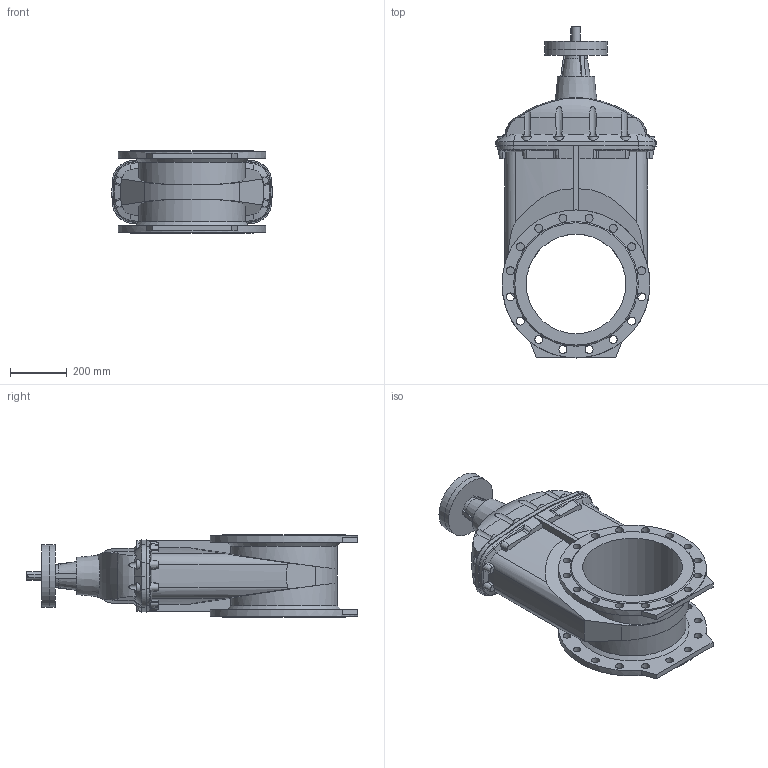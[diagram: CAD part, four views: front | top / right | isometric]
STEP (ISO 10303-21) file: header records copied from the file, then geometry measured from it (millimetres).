
FILE_DESCRIPTION (( 'STEP AP203' ), '1' );
FILE_NAME ('O_15_40_DN350_X1X_AA0.step', '2017-03-10T08:03:26', ( 'Windows User' ), ( 'AVK' ), 'SwSTEP 2.0', 'SolidWorks 2012', '' );
FILE_SCHEMA (( 'CONFIG_CONTROL_DESIGN' ));
Length unit declared in the file: millimetre
Products named in the file (1): O_15_40_DN350_X1X_AA0
Bounding box: 564 x 1167 x 290 mm (x, y, z)
Volume: 58234830 mm3; surface area: 2069385.6 mm2
Topology: 1 solids, 1 shells, 341 faces, 973 edges, 648 vertices
Faces by surface type: plane 113, cone 88, cylinder 74, torus 33, bspline 33
Full cylindrical faces by diameter (mm): 18 x4, 28 x32, 30 x1, 220 x2, 350 x1, 520 x2
Entity records: 16524 total; most frequent: CARTESIAN_POINT 8362, ORIENTED_EDGE 1774, DIRECTION 1479, EDGE_CURVE 887, AXIS2_PLACEMENT_3D 627, VERTEX_POINT 608, EDGE_LOOP 467, FACE_OUTER_BOUND 383
